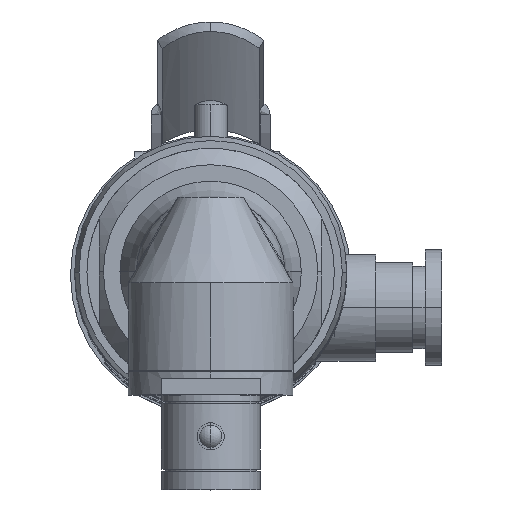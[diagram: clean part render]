
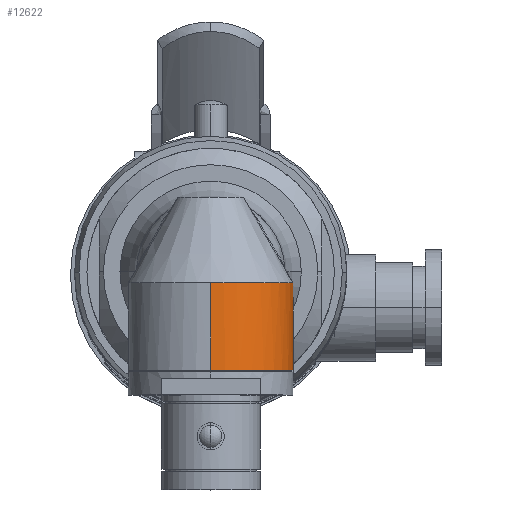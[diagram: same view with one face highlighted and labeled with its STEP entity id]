
A CAD part, top view. The second image highlights one B-rep face of the part: STEP entity #12622.
In plain terms, the highlighted cylindrical face has radius 10 mm (diameter 20 mm), a partial arc.
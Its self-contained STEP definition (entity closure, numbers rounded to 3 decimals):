
#12614 = EDGE_LOOP ( 'NONE', ( #19890, #19228, #18538, #18179, #16947, #20839 ) ) ;
#12622 = ADVANCED_FACE ( 'NONE', ( #21901 ), #21900, .T. ) ;
#16947 = ORIENTED_EDGE ( 'NONE', *, *, #17766, .F. ) ;
#17766 = EDGE_CURVE ( 'NONE', #21016, #18281, #23798, .T. ) ;
#18179 = ORIENTED_EDGE ( 'NONE', *, *, #18309, .F. ) ;
#18260 = EDGE_CURVE ( 'NONE', #18531, #18273, #23867, .T. ) ;
#18273 = VERTEX_POINT ( 'NONE', #23862 ) ;
#18281 = VERTEX_POINT ( 'NONE', #23861 ) ;
#18309 = EDGE_CURVE ( 'NONE', #18281, #18273, #23917, .T. ) ;
#18531 = VERTEX_POINT ( 'NONE', #23946 ) ;
#18538 = ORIENTED_EDGE ( 'NONE', *, *, #18260, .T. ) ;
#19064 = EDGE_CURVE ( 'NONE', #19968, #18531, #23993, .T. ) ;
#19228 = ORIENTED_EDGE ( 'NONE', *, *, #19064, .T. ) ;
#19890 = ORIENTED_EDGE ( 'NONE', *, *, #19940, .T. ) ;
#19940 = EDGE_CURVE ( 'NONE', #19956, #19968, #24082, .T. ) ;
#19956 = VERTEX_POINT ( 'NONE', #24133 ) ;
#19968 = VERTEX_POINT ( 'NONE', #24132 ) ;
#20831 = EDGE_CURVE ( 'NONE', #21016, #19956, #24188, .T. ) ;
#20839 = ORIENTED_EDGE ( 'NONE', *, *, #20831, .T. ) ;
#21016 = VERTEX_POINT ( 'NONE', #24238 ) ;
#21896 = DIRECTION ( 'NONE',  ( 0., 0., -1. ) ) ;
#21897 = DIRECTION ( 'NONE',  ( 0., -1., 0. ) ) ;
#21898 = CARTESIAN_POINT ( 'NONE',  ( 0., 9., 0. ) ) ;
#21899 = AXIS2_PLACEMENT_3D ( 'NONE', #21898, #21897, #21896 ) ;
#21900 = CYLINDRICAL_SURFACE ( 'NONE', #21899, 10. ) ;
#21901 = FACE_OUTER_BOUND ( 'NONE', #12614, .T. ) ;
#23782 = CARTESIAN_POINT ( 'NONE',  ( 8.339, -3.427, -5.533 ) ) ;
#23783 = CARTESIAN_POINT ( 'NONE',  ( 8.532, -2.918, -5.224 ) ) ;
#23784 = CARTESIAN_POINT ( 'NONE',  ( 8.754, -2.109, -4.837 ) ) ;
#23785 = CARTESIAN_POINT ( 'NONE',  ( 8.817, -1.831, -4.72 ) ) ;
#23786 = CARTESIAN_POINT ( 'NONE',  ( 8.918, -1.25, -4.526 ) ) ;
#23787 = CARTESIAN_POINT ( 'NONE',  ( 8.955, -0.948, -4.451 ) ) ;
#23788 = CARTESIAN_POINT ( 'NONE',  ( 8.977, -0.644, -4.406 ) ) ;
#23798 = B_SPLINE_CURVE_WITH_KNOTS ( 'NONE', 3,
 ( #23788, #23787, #23786, #23785, #23784, #23783, #23782, #23859, #23858, #23857, #23856, #23855, #23854, #23853, #23852, #23851, #23850, #23849, #23848, #23847, #23846, #23845, #23843, #23841 ),
 .UNSPECIFIED., .F., .F.,
 ( 4, 2, 2, 2, 2, 2, 2, 2, 2, 2, 2, 4 ),
 ( 0.016, 0.017, 0.018, 0.02, 0.022, 0.022, 0.023, 0.025, 0.027, 0.028, 0.029, 0.031 ),
 .UNSPECIFIED. ) ;
#23822 = CARTESIAN_POINT ( 'NONE',  ( 0., -1.392, 0. ) ) ;
#23823 = AXIS2_PLACEMENT_3D ( 'NONE', #23822, #24139, #24138 ) ;
#23841 = CARTESIAN_POINT ( 'NONE',  ( 0., -9., -10. ) ) ;
#23843 = CARTESIAN_POINT ( 'NONE',  ( 0.617, -9., -10. ) ) ;
#23845 = CARTESIAN_POINT ( 'NONE',  ( 1.223, -8.937, -9.943 ) ) ;
#23846 = CARTESIAN_POINT ( 'NONE',  ( 2.118, -8.752, -9.778 ) ) ;
#23847 = CARTESIAN_POINT ( 'NONE',  ( 2.413, -8.676, -9.709 ) ) ;
#23848 = CARTESIAN_POINT ( 'NONE',  ( 2.981, -8.497, -9.55 ) ) ;
#23849 = CARTESIAN_POINT ( 'NONE',  ( 3.257, -8.395, -9.459 ) ) ;
#23850 = CARTESIAN_POINT ( 'NONE',  ( 4.059, -8.054, -9.157 ) ) ;
#23851 = CARTESIAN_POINT ( 'NONE',  ( 4.565, -7.776, -8.913 ) ) ;
#23852 = CARTESIAN_POINT ( 'NONE',  ( 5.484, -7.158, -8.379 ) ) ;
#23853 = CARTESIAN_POINT ( 'NONE',  ( 5.902, -6.816, -8.088 ) ) ;
#23854 = CARTESIAN_POINT ( 'NONE',  ( 6.474, -6.257, -7.625 ) ) ;
#23855 = CARTESIAN_POINT ( 'NONE',  ( 6.657, -6.063, -7.466 ) ) ;
#23856 = CARTESIAN_POINT ( 'NONE',  ( 7.001, -5.662, -7.144 ) ) ;
#23857 = CARTESIAN_POINT ( 'NONE',  ( 7.162, -5.456, -6.982 ) ) ;
#23858 = CARTESIAN_POINT ( 'NONE',  ( 7.617, -4.821, -6.494 ) ) ;
#23859 = CARTESIAN_POINT ( 'NONE',  ( 7.882, -4.376, -6.167 ) ) ;
#23861 = CARTESIAN_POINT ( 'NONE',  ( 0., -9., -10. ) ) ;
#23862 = CARTESIAN_POINT ( 'NONE',  ( 0., -12., -10. ) ) ;
#23863 = DIRECTION ( 'NONE',  ( 0., 0., 1. ) ) ;
#23864 = DIRECTION ( 'NONE',  ( 0., 1., 0. ) ) ;
#23865 = CARTESIAN_POINT ( 'NONE',  ( 0., -12., 0. ) ) ;
#23866 = AXIS2_PLACEMENT_3D ( 'NONE', #23865, #23864, #23863 ) ;
#23867 = CIRCLE ( 'NONE', #23866, 10. ) ;
#23914 = DIRECTION ( 'NONE',  ( 0., -1., 0. ) ) ;
#23915 = VECTOR ( 'NONE', #23914, 1000. ) ;
#23916 = CARTESIAN_POINT ( 'NONE',  ( 0., 9., -10. ) ) ;
#23917 = LINE ( 'NONE', #23916, #23915 ) ;
#23946 = CARTESIAN_POINT ( 'NONE',  ( 0., -12., 10. ) ) ;
#23990 = DIRECTION ( 'NONE',  ( 0., -1., 0. ) ) ;
#23991 = VECTOR ( 'NONE', #23990, 1000. ) ;
#23992 = CARTESIAN_POINT ( 'NONE',  ( 0., 9., 10. ) ) ;
#23993 = LINE ( 'NONE', #23992, #23991 ) ;
#24082 = CIRCLE ( 'NONE', #23823, 10. ) ;
#24132 = CARTESIAN_POINT ( 'NONE',  ( 0., -1.392, 10. ) ) ;
#24133 = CARTESIAN_POINT ( 'NONE',  ( 9.275, -1.392, -3.737 ) ) ;
#24138 = DIRECTION ( 'NONE',  ( 0., 0., -1. ) ) ;
#24139 = DIRECTION ( 'NONE',  ( 0., -1., 0. ) ) ;
#24176 = CARTESIAN_POINT ( 'NONE',  ( 9.196, -1.384, -3.93 ) ) ;
#24177 = CARTESIAN_POINT ( 'NONE',  ( 9.116, -1.333, -4.113 ) ) ;
#24178 = CARTESIAN_POINT ( 'NONE',  ( 9.075, -1.289, -4.201 ) ) ;
#24179 = CARTESIAN_POINT ( 'NONE',  ( 9.01, -1.149, -4.34 ) ) ;
#24180 = CARTESIAN_POINT ( 'NONE',  ( 8.987, -1.053, -4.385 ) ) ;
#24181 = CARTESIAN_POINT ( 'NONE',  ( 8.968, -0.852, -4.424 ) ) ;
#24182 = CARTESIAN_POINT ( 'NONE',  ( 8.97, -0.747, -4.421 ) ) ;
#24183 = CARTESIAN_POINT ( 'NONE',  ( 8.977, -0.644, -4.406 ) ) ;
#24188 = B_SPLINE_CURVE_WITH_KNOTS ( 'NONE', 3,
 ( #24183, #24182, #24181, #24180, #24179, #24178, #24177, #24176, #24240, #24239 ),
 .UNSPECIFIED., .F., .F.,
 ( 4, 2, 2, 2, 4 ),
 ( 0., 0., 0.001, 0.001, 0.001 ),
 .UNSPECIFIED. ) ;
#24238 = CARTESIAN_POINT ( 'NONE',  ( 8.977, -0.644, -4.406 ) ) ;
#24239 = CARTESIAN_POINT ( 'NONE',  ( 9.275, -1.392, -3.737 ) ) ;
#24240 = CARTESIAN_POINT ( 'NONE',  ( 9.237, -1.392, -3.833 ) ) ;
